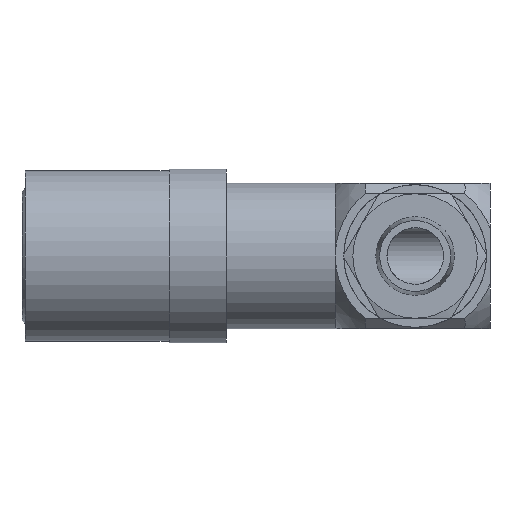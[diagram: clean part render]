
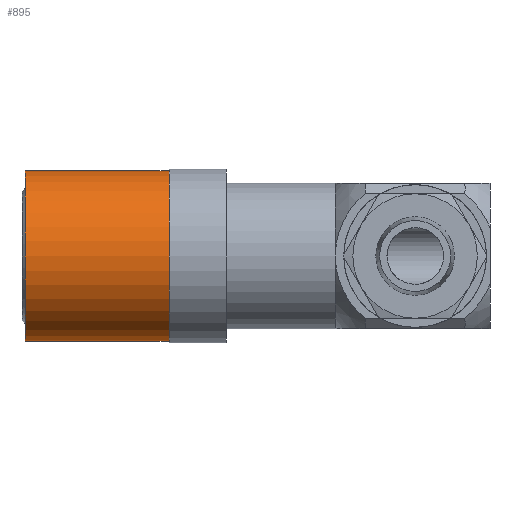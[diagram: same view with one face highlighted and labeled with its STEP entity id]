
A CAD part, front view. The second image highlights one B-rep face of the part: STEP entity #895.
In plain terms, the highlighted cylindrical face has radius 11.303 mm (diameter 22.606 mm), a full revolution.
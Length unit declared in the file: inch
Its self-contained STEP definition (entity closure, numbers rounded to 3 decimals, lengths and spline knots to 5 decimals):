
#277=ORIENTED_EDGE('',*,*,#501,.F.);
#278=ORIENTED_EDGE('',*,*,#500,.T.);
#500=EDGE_CURVE('',#598,#598,#673,.T.);
#501=EDGE_CURVE('',#599,#599,#674,.T.);
#598=VERTEX_POINT('',#1632);
#599=VERTEX_POINT('',#1635);
#673=CIRCLE('',#1030,0.445);
#674=CIRCLE('',#1032,0.445);
#719=EDGE_LOOP('',(#277));
#720=EDGE_LOOP('',(#278));
#805=FACE_BOUND('',#719,.T.);
#806=FACE_BOUND('',#720,.T.);
#865=CYLINDRICAL_SURFACE('',#1031,0.445);
#895=ADVANCED_FACE('',(#805,#806),#865,.T.);
#1030=AXIS2_PLACEMENT_3D('',#1631,#1277,#1278);
#1031=AXIS2_PLACEMENT_3D('',#1633,#1279,#1280);
#1032=AXIS2_PLACEMENT_3D('',#1634,#1281,#1282);
#1277=DIRECTION('',(1.,0.,0.));
#1278=DIRECTION('',(0.,0.,-1.));
#1279=DIRECTION('',(1.,0.,0.));
#1280=DIRECTION('',(0.,0.,-1.));
#1281=DIRECTION('',(1.,0.,0.));
#1282=DIRECTION('',(0.,0.,-1.));
#1631=CARTESIAN_POINT('',(0.,0.,0.));
#1632=CARTESIAN_POINT('',(0.,0.,-0.445));
#1633=CARTESIAN_POINT('',(2.599,0.,0.));
#1634=CARTESIAN_POINT('',(0.75,0.,0.));
#1635=CARTESIAN_POINT('',(0.75,0.,-0.445));
